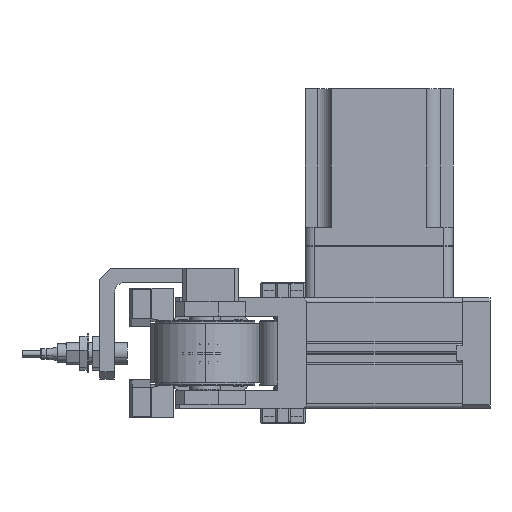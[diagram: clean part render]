
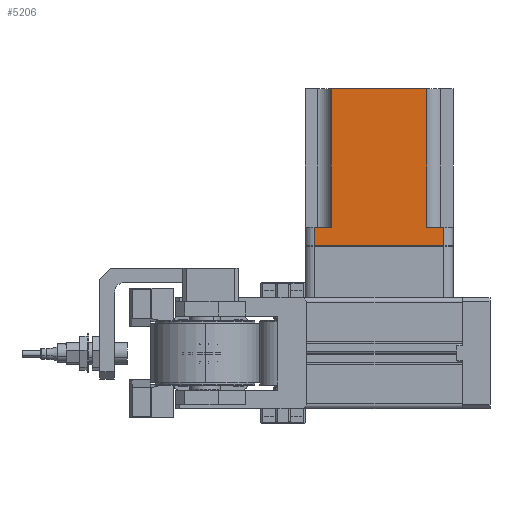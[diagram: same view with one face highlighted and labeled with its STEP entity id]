
A CAD part, left-side view. The second image highlights one B-rep face of the part: STEP entity #5206.
In plain terms, the highlighted planar face has unit normal (-1, 0, 0) as drawn and (0, 1, 0) by its records, which use the part's own axes.
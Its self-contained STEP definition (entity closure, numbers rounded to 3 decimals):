
#4215=PLANE('',#35938);
#5206=ADVANCED_FACE('',(#7501),#4215,.F.);
#7501=FACE_OUTER_BOUND('',#9285,.T.);
#9285=EDGE_LOOP('',(#17569,#17570,#17571,#17572,#17573,#17574,#17575,#17576));
#11422=LINE('',#47336,#13993);
#11427=LINE('',#47368,#13998);
#11447=LINE('',#47410,#14018);
#11448=LINE('',#47411,#14019);
#11449=LINE('',#47413,#14020);
#11450=LINE('',#47415,#14021);
#11451=LINE('',#47417,#14022);
#11452=LINE('',#47419,#14023);
#13993=VECTOR('',#39179,1.);
#13998=VECTOR('',#39218,1.);
#14018=VECTOR('',#39254,1.);
#14019=VECTOR('',#39255,1.);
#14020=VECTOR('',#39256,1.);
#14021=VECTOR('',#39257,1.);
#14022=VECTOR('',#39258,1.);
#14023=VECTOR('',#39259,1.);
#17569=ORIENTED_EDGE('',*,*,#30043,.T.);
#17570=ORIENTED_EDGE('',*,*,#30066,.T.);
#17571=ORIENTED_EDGE('',*,*,#30027,.T.);
#17572=ORIENTED_EDGE('',*,*,#30067,.F.);
#17573=ORIENTED_EDGE('',*,*,#30068,.T.);
#17574=ORIENTED_EDGE('',*,*,#30069,.T.);
#17575=ORIENTED_EDGE('',*,*,#30070,.F.);
#17576=ORIENTED_EDGE('',*,*,#30071,.F.);
#26687=VERTEX_POINT('',#47330);
#26690=VERTEX_POINT('',#47335);
#26700=VERTEX_POINT('',#47367);
#26701=VERTEX_POINT('',#47369);
#26715=VERTEX_POINT('',#47412);
#26716=VERTEX_POINT('',#47414);
#26717=VERTEX_POINT('',#47416);
#26718=VERTEX_POINT('',#47418);
#30027=EDGE_CURVE('',#26687,#26690,#11422,.T.);
#30043=EDGE_CURVE('',#26701,#26700,#11427,.T.);
#30066=EDGE_CURVE('',#26700,#26687,#11447,.T.);
#30067=EDGE_CURVE('',#26715,#26690,#11448,.T.);
#30068=EDGE_CURVE('',#26715,#26716,#11449,.T.);
#30069=EDGE_CURVE('',#26716,#26717,#11450,.T.);
#30070=EDGE_CURVE('',#26718,#26717,#11451,.T.);
#30071=EDGE_CURVE('',#26701,#26718,#11452,.T.);
#35938=AXIS2_PLACEMENT_3D('',#47420,#39260,#39261);
#39179=DIRECTION('',(0.,0.,-1.));
#39218=DIRECTION('',(0.,0.,1.));
#39254=DIRECTION('',(1.,0.,0.));
#39255=DIRECTION('',(1.,0.,0.));
#39256=DIRECTION('',(0.,0.,-1.));
#39257=DIRECTION('',(-1.,0.,0.));
#39258=DIRECTION('',(0.,0.,-1.));
#39259=DIRECTION('',(1.,0.,0.));
#39260=DIRECTION('',(0.,-1.,0.));
#39261=DIRECTION('',(0.,0.,1.));
#47330=CARTESIAN_POINT('',(75.,80.,85.));
#47335=CARTESIAN_POINT('',(75.,80.,75.));
#47336=CARTESIAN_POINT('',(75.,80.,117.));
#47367=CARTESIAN_POINT('',(5.,80.,85.));
#47368=CARTESIAN_POINT('',(5.,80.,117.));
#47369=CARTESIAN_POINT('',(5.,80.,75.));
#47410=CARTESIAN_POINT('',(75.,80.,85.));
#47411=CARTESIAN_POINT('',(75.,80.,75.));
#47412=CARTESIAN_POINT('',(65.737,80.,75.));
#47413=CARTESIAN_POINT('',(65.737,80.,75.));
#47414=CARTESIAN_POINT('',(65.737,80.,0.));
#47415=CARTESIAN_POINT('',(0.,80.,0.));
#47416=CARTESIAN_POINT('',(14.263,80.,0.));
#47417=CARTESIAN_POINT('',(14.263,80.,75.));
#47418=CARTESIAN_POINT('',(14.263,80.,75.));
#47419=CARTESIAN_POINT('',(14.263,80.,75.));
#47420=CARTESIAN_POINT('',(0.,80.,117.));
